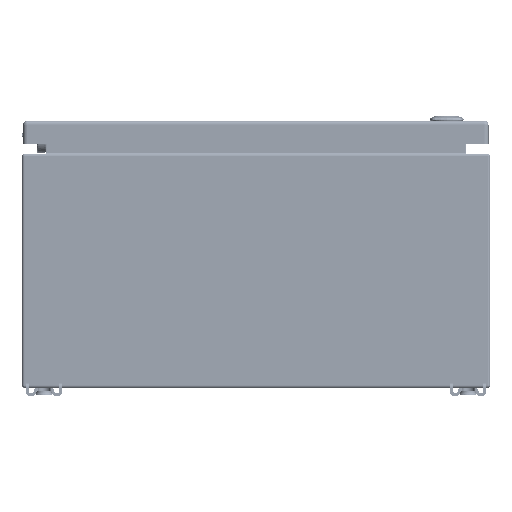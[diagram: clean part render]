
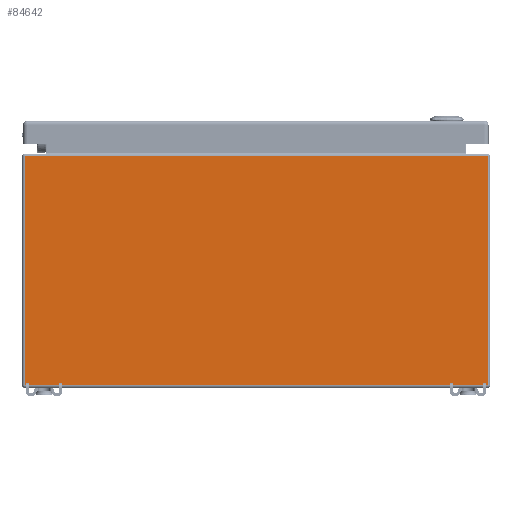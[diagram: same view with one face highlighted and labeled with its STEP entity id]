
A CAD part, front view. The second image highlights one B-rep face of the part: STEP entity #84642.
In plain terms, the highlighted planar face has unit normal (0, -1, 0).
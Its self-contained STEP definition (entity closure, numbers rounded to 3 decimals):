
#11685=FACE_OUTER_BOUND('',#16850,.T.);
#16850=EDGE_LOOP('',(#56371,#56372,#56373,#56374));
#22366=LINE('',#119570,#28307);
#22373=LINE('',#119585,#28314);
#22375=LINE('',#119592,#28316);
#22377=LINE('',#119601,#28318);
#28307=VECTOR('',#98554,0.394);
#28314=VECTOR('',#98567,0.394);
#28316=VECTOR('',#98575,0.394);
#28318=VECTOR('',#98587,0.394);
#34243=VERTEX_POINT('',#119540);
#34250=VERTEX_POINT('',#119566);
#34255=VERTEX_POINT('',#119584);
#34257=VERTEX_POINT('',#119590);
#42813=EDGE_CURVE('',#34243,#34250,#22366,.T.);
#42820=EDGE_CURVE('',#34250,#34255,#22373,.T.);
#42824=EDGE_CURVE('',#34257,#34243,#22375,.T.);
#42829=EDGE_CURVE('',#34257,#34255,#22377,.T.);
#56371=ORIENTED_EDGE('',*,*,#42813,.F.);
#56372=ORIENTED_EDGE('',*,*,#42824,.F.);
#56373=ORIENTED_EDGE('',*,*,#42829,.T.);
#56374=ORIENTED_EDGE('',*,*,#42820,.F.);
#82667=PLANE('',#90831);
#84642=ADVANCED_FACE('',(#11685),#82667,.F.);
#90831=AXIS2_PLACEMENT_3D('',#119612,#98601,#98602);
#98554=DIRECTION('',(1.,0.,0.));
#98567=DIRECTION('',(0.,0.,-1.));
#98575=DIRECTION('',(0.,0.,1.));
#98587=DIRECTION('',(1.,0.,0.));
#98601=DIRECTION('center_axis',(0.,1.,0.));
#98602=DIRECTION('ref_axis',(0.,0.,1.));
#119540=CARTESIAN_POINT('',(-7.916,-8.,7.916));
#119566=CARTESIAN_POINT('',(7.916,-8.,7.916));
#119570=CARTESIAN_POINT('',(3.979,-8.,7.916));
#119584=CARTESIAN_POINT('',(7.916,-8.,0.084));
#119585=CARTESIAN_POINT('',(7.916,-8.,4.));
#119590=CARTESIAN_POINT('',(-7.916,-8.,0.084));
#119592=CARTESIAN_POINT('',(-7.916,-8.,4.));
#119601=CARTESIAN_POINT('',(-3.958,-8.,0.084));
#119612=CARTESIAN_POINT('Origin',(0.,-8.,4.));
